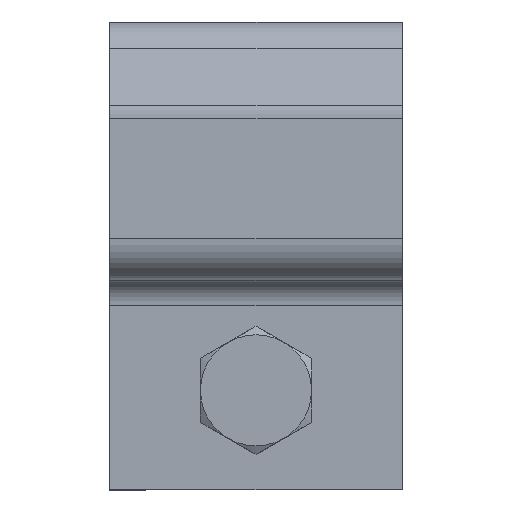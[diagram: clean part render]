
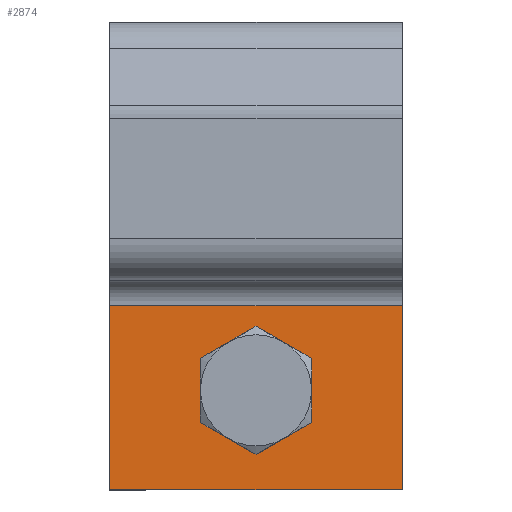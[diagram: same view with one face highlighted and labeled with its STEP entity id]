
A CAD part, top view. The second image highlights one B-rep face of the part: STEP entity #2874.
In plain terms, the highlighted planar face has unit normal (0, 0, 1) as drawn and (0, 0, -1) by its records, which use the part's own axes.
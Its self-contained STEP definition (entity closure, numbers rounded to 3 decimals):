
#85=FACE_BOUND('',#398,.T.);
#132=PLANE('',#3069);
#223=FACE_OUTER_BOUND('',#397,.T.);
#397=EDGE_LOOP('',(#2051,#2052,#2053,#2054));
#398=EDGE_LOOP('',(#2055));
#565=CIRCLE('',#3063,6.5);
#767=LINE('',#4434,#1005);
#768=LINE('',#4442,#1006);
#771=LINE('',#4448,#1009);
#774=LINE('',#4453,#1012);
#1005=VECTOR('',#3512,50.);
#1006=VECTOR('',#3521,31.5);
#1009=VECTOR('',#3526,31.5);
#1012=VECTOR('',#3531,50.);
#1226=VERTEX_POINT('',#4423);
#1227=VERTEX_POINT('',#4427);
#1228=VERTEX_POINT('',#4436);
#1230=VERTEX_POINT('',#4441);
#1232=VERTEX_POINT('',#4447);
#1538=EDGE_CURVE('',#1227,#1226,#767,.T.);
#1539=EDGE_CURVE('',#1228,#1228,#565,.T.);
#1541=EDGE_CURVE('',#1230,#1227,#768,.T.);
#1544=EDGE_CURVE('',#1226,#1232,#771,.T.);
#1547=EDGE_CURVE('',#1232,#1230,#774,.T.);
#2051=ORIENTED_EDGE('',*,*,#1541,.F.);
#2052=ORIENTED_EDGE('',*,*,#1547,.F.);
#2053=ORIENTED_EDGE('',*,*,#1544,.F.);
#2054=ORIENTED_EDGE('',*,*,#1538,.F.);
#2055=ORIENTED_EDGE('',*,*,#1539,.T.);
#2874=ADVANCED_FACE('',(#223,#85),#132,.F.);
#3063=AXIS2_PLACEMENT_3D('',#4437,#3515,#3516);
#3069=AXIS2_PLACEMENT_3D('',#4456,#3535,#3536);
#3512=DIRECTION('',(1.,0.,0.));
#3515=DIRECTION('center_axis',(0.,0.,1.));
#3516=DIRECTION('ref_axis',(-1.,0.,0.));
#3521=DIRECTION('',(0.,-1.,0.));
#3526=DIRECTION('',(0.,1.,0.));
#3531=DIRECTION('',(-1.,0.,0.));
#3535=DIRECTION('center_axis',(0.,0.,1.));
#3536=DIRECTION('ref_axis',(1.,0.,0.));
#4423=CARTESIAN_POINT('',(25.,-14.5,-4.));
#4427=CARTESIAN_POINT('',(-25.,-14.5,-4.));
#4434=CARTESIAN_POINT('',(25.,-14.5,-4.));
#4436=CARTESIAN_POINT('',(6.5,0.,-4.));
#4437=CARTESIAN_POINT('Origin',(0.,0.,-4.));
#4441=CARTESIAN_POINT('',(-25.,17.,-4.));
#4442=CARTESIAN_POINT('',(-25.,-14.5,-4.));
#4447=CARTESIAN_POINT('',(25.,17.,-4.));
#4448=CARTESIAN_POINT('',(25.,17.,-4.));
#4453=CARTESIAN_POINT('',(-25.,17.,-4.));
#4456=CARTESIAN_POINT('Origin',(0.,1.25,-4.));
